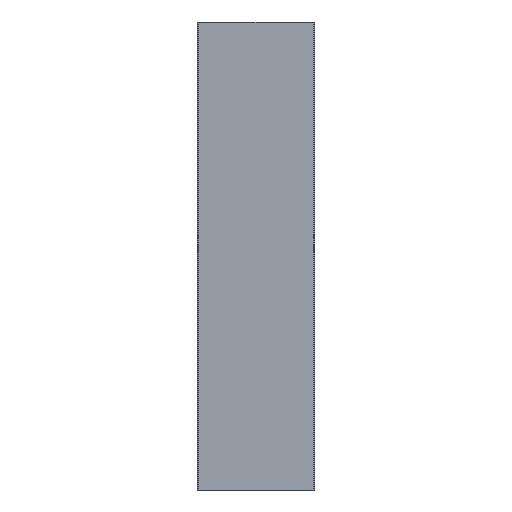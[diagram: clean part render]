
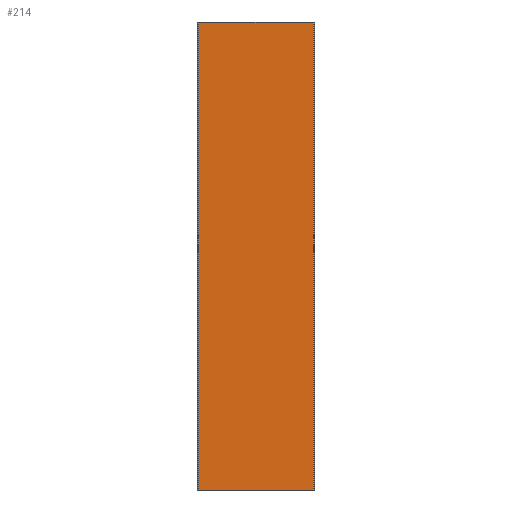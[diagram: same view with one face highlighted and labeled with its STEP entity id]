
A CAD part, front view. The second image highlights one B-rep face of the part: STEP entity #214.
In plain terms, the highlighted planar face has unit normal (0, -1, 0).
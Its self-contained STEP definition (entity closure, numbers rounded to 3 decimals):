
#48 = CARTESIAN_POINT ( 'NONE',  ( 0.3, 0., 0. ) ) ;
#63 = AXIS2_PLACEMENT_3D ( 'NONE', #180, #483, #164 ) ;
#65 = LINE ( 'NONE', #501, #215 ) ;
#108 = DIRECTION ( 'NONE',  ( -1., 0., 0. ) ) ;
#109 = CARTESIAN_POINT ( 'NONE',  ( 24.7, 0., 0. ) ) ;
#112 = VERTEX_POINT ( 'NONE', #48 ) ;
#119 = VERTEX_POINT ( 'NONE', #511 ) ;
#129 = PLANE ( 'NONE',  #63 ) ;
#142 = ORIENTED_EDGE ( 'NONE', *, *, #175, .T. ) ;
#148 = VECTOR ( 'NONE', #108, 1000. ) ;
#164 = DIRECTION ( 'NONE',  ( 0., 0., -1. ) ) ;
#175 = EDGE_CURVE ( 'NONE', #112, #119, #309, .T. ) ;
#180 = CARTESIAN_POINT ( 'NONE',  ( 0.3, 0., -100. ) ) ;
#188 = VECTOR ( 'NONE', #515, 1000. ) ;
#214 = ADVANCED_FACE ( 'NONE', ( #626 ), #129, .T. ) ;
#215 = VECTOR ( 'NONE', #296, 1000. ) ;
#287 = EDGE_LOOP ( 'NONE', ( #486, #493, #413, #142 ) ) ;
#293 = CARTESIAN_POINT ( 'NONE',  ( 0.3, 0., -100. ) ) ;
#296 = DIRECTION ( 'NONE',  ( 1., 0., 0. ) ) ;
#309 = LINE ( 'NONE', #293, #576 ) ;
#409 = CARTESIAN_POINT ( 'NONE',  ( 0.3, 0., 0. ) ) ;
#413 = ORIENTED_EDGE ( 'NONE', *, *, #616, .T. ) ;
#421 = LINE ( 'NONE', #566, #188 ) ;
#424 = EDGE_CURVE ( 'NONE', #119, #506, #65, .T. ) ;
#483 = DIRECTION ( 'NONE',  ( 0., -1., 0. ) ) ;
#486 = ORIENTED_EDGE ( 'NONE', *, *, #424, .T. ) ;
#493 = ORIENTED_EDGE ( 'NONE', *, *, #541, .T. ) ;
#501 = CARTESIAN_POINT ( 'NONE',  ( 0.3, 0., -100. ) ) ;
#506 = VERTEX_POINT ( 'NONE', #619 ) ;
#511 = CARTESIAN_POINT ( 'NONE',  ( 0.3, 0., -100. ) ) ;
#515 = DIRECTION ( 'NONE',  ( 0., 0., 1. ) ) ;
#541 = EDGE_CURVE ( 'NONE', #506, #594, #421, .T. ) ;
#566 = CARTESIAN_POINT ( 'NONE',  ( 24.7, 0., -100. ) ) ;
#576 = VECTOR ( 'NONE', #586, 1000. ) ;
#586 = DIRECTION ( 'NONE',  ( 0., 0., -1. ) ) ;
#594 = VERTEX_POINT ( 'NONE', #109 ) ;
#600 = LINE ( 'NONE', #409, #148 ) ;
#616 = EDGE_CURVE ( 'NONE', #594, #112, #600, .T. ) ;
#619 = CARTESIAN_POINT ( 'NONE',  ( 24.7, 0., -100. ) ) ;
#626 = FACE_OUTER_BOUND ( 'NONE', #287, .T. ) ;
